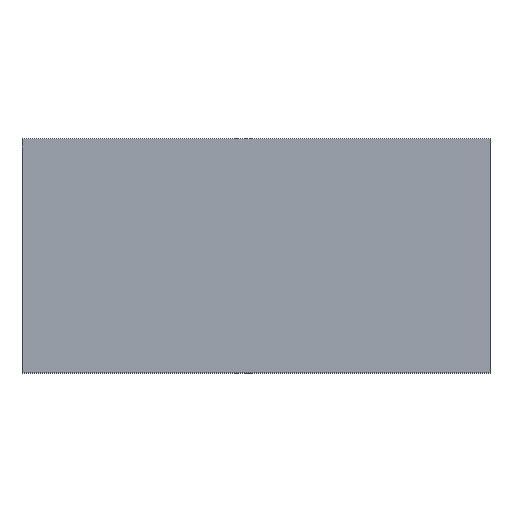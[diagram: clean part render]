
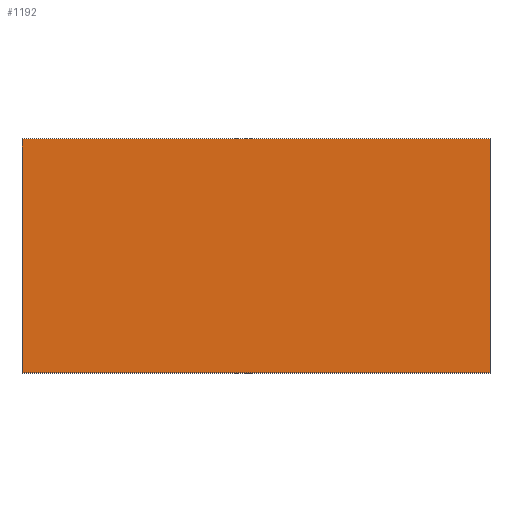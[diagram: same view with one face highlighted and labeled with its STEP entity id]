
A CAD part, top view. The second image highlights one B-rep face of the part: STEP entity #1192.
In plain terms, the highlighted planar face has unit normal (0, 0, 1).
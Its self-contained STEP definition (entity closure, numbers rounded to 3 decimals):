
#152=ORIENTED_EDGE('',*,*,#458,.T.);
#153=ORIENTED_EDGE('',*,*,#462,.T.);
#154=ORIENTED_EDGE('',*,*,#465,.T.);
#155=ORIENTED_EDGE('',*,*,#467,.T.);
#458=EDGE_CURVE('',#611,#610,#738,.T.);
#462=EDGE_CURVE('',#610,#613,#742,.T.);
#465=EDGE_CURVE('',#613,#615,#745,.T.);
#467=EDGE_CURVE('',#615,#611,#747,.T.);
#610=VERTEX_POINT('',#1813);
#611=VERTEX_POINT('',#1815);
#613=VERTEX_POINT('',#1821);
#615=VERTEX_POINT('',#1827);
#738=LINE('',#1814,#906);
#742=LINE('',#1822,#910);
#745=LINE('',#1828,#913);
#747=LINE('',#1831,#915);
#906=VECTOR('',#1450,1000.);
#910=VECTOR('',#1456,1000.);
#913=VECTOR('',#1461,1000.);
#915=VECTOR('',#1465,1000.);
#997=EDGE_LOOP('',(#152,#153,#154,#155));
#1065=FACE_BOUND('',#997,.T.);
#1129=PLANE('',#1268);
#1192=ADVANCED_FACE('',(#1065),#1129,.T.);
#1268=AXIS2_PLACEMENT_3D('',#1832,#1466,#1467);
#1450=DIRECTION('',(-1.,0.,0.));
#1456=DIRECTION('',(0.,-1.,0.));
#1461=DIRECTION('',(1.,0.,0.));
#1465=DIRECTION('',(0.,1.,0.));
#1466=DIRECTION('',(0.,0.,1.));
#1467=DIRECTION('',(1.,0.,0.));
#1813=CARTESIAN_POINT('',(-30.,15.,5.));
#1814=CARTESIAN_POINT('',(30.,15.,5.));
#1815=CARTESIAN_POINT('',(30.,15.,5.));
#1821=CARTESIAN_POINT('',(-30.,-15.,5.));
#1822=CARTESIAN_POINT('',(-30.,15.,5.));
#1827=CARTESIAN_POINT('',(30.,-15.,5.));
#1828=CARTESIAN_POINT('',(-30.,-15.,5.));
#1831=CARTESIAN_POINT('',(30.,-15.,5.));
#1832=CARTESIAN_POINT('',(0.,0.,5.));
